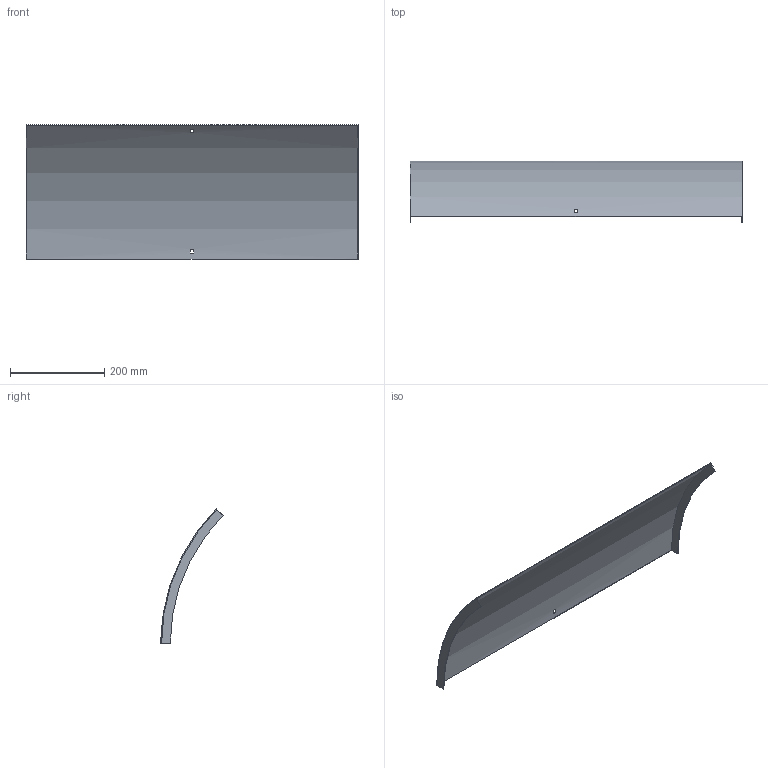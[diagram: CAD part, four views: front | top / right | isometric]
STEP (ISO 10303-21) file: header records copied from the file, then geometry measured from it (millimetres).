
FILE_DESCRIPTION (( 'STEP AP214' ), '1' );
FILE_NAME ('B2_34N3D700.step', '2025-02-21T10:36:42', ( '' ), ( '' ), 'SwSTEP 2.0', 'SolidWorks 2023', '' );
FILE_SCHEMA (( 'AUTOMOTIVE_DESIGN' ));
Length unit declared in the file: millimetre
Products named in the file (1): B2_34N3D700
Bounding box: 703 x 131.74 x 283.9 mm (x, y, z)
Volume: 348759.1 mm3; surface area: 468225.8 mm2
Topology: 1 solids, 1 shells, 18 faces, 48 edges, 32 vertices
Faces by surface type: plane 14, cylinder 4
Entity records: 599 total; most frequent: DIRECTION 102, CARTESIAN_POINT 99, ORIENTED_EDGE 96, EDGE_CURVE 48, AXIS2_PLACEMENT_3D 35, VERTEX_POINT 32, VECTOR 32, LINE 32
